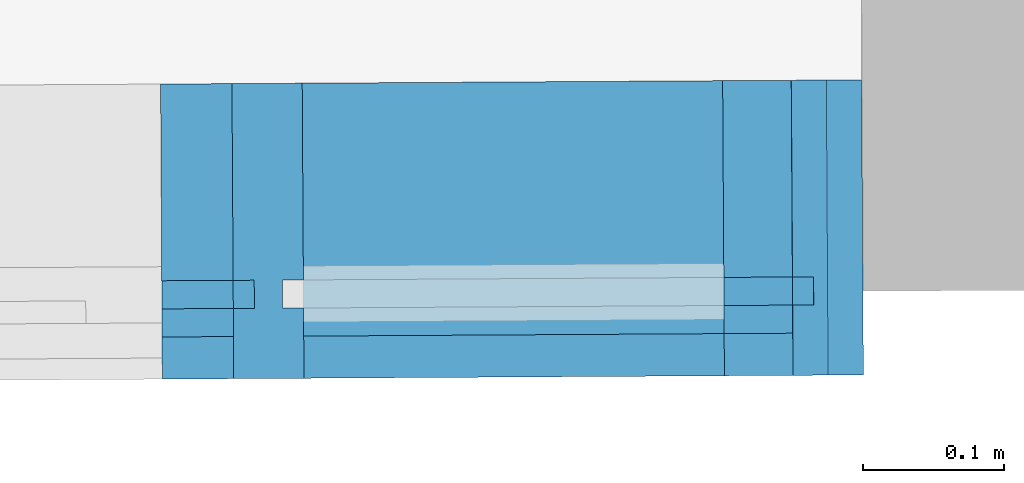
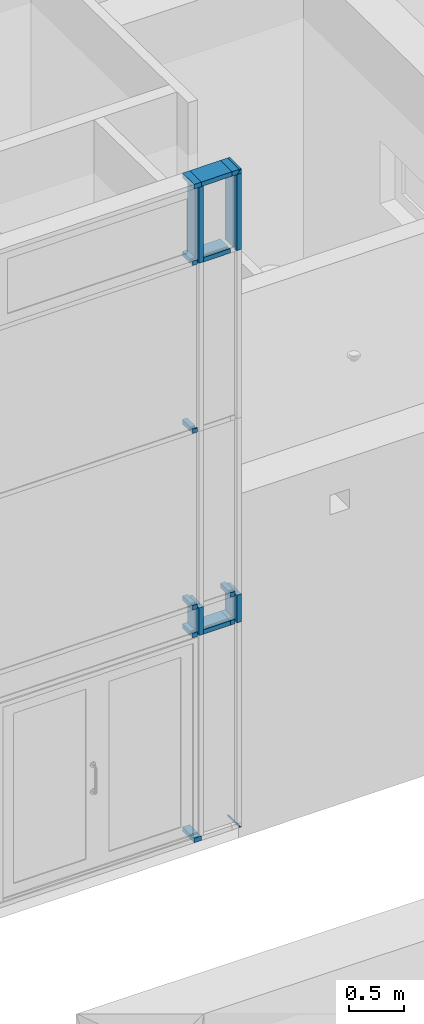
# One storey, part 148 of 196: 19 building element parts, 1 element without a shape of its own.
"""IFC2X3 building model written with IfcOpenShell, lengths in metres."""

from ifc_helpers import new_model, entity, si_unit, converted_unit, derived_unit, money_unit, direction, frame, origin_with_axes, place, context, subcontext, project, spatial, faceted_brep, material, type_object, element, aggregate, save


model = new_model("IFC2X3")

# Units and contexts
model_context = context("Model", 3, precision=1e-05, world=origin_with_axes(), true_north=direction((0.0, 1.0)))
body_context = subcontext(model_context, "Body", "Model", "MODEL_VIEW")
ifc_project = project(units=[si_unit("LENGTHUNIT", "METRE"), si_unit("AREAUNIT", "SQUARE_METRE"), si_unit("VOLUMEUNIT", "CUBIC_METRE"), converted_unit("PLANEANGLEUNIT", "DEGREE", entity("IfcPlaneAngleMeasure", 0.0174532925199), si_unit("PLANEANGLEUNIT", "RADIAN"), dimensions=[0, 0, 0, 0, 0, 0, 0]), money_unit("EUR"), converted_unit("TIMEUNIT", "Year", entity("IfcTimeMeasure", 31556926.0), si_unit("TIMEUNIT", "SECOND"), dimensions=[0, 0, 1, 0, 0, 0, 0]), si_unit("MASSUNIT", "GRAM", prefix="KILO"), si_unit("THERMODYNAMICTEMPERATUREUNIT", "DEGREE_CELSIUS"), si_unit("LUMINOUSINTENSITYUNIT", "LUMEN"), si_unit("ENERGYUNIT", "JOULE", prefix="MEGA"), derived_unit("THERMALCONDUCTANCEUNIT", [(si_unit("POWERUNIT", "WATT"), 1), (si_unit("LENGTHUNIT", "METRE"), -1), (si_unit("THERMODYNAMICTEMPERATUREUNIT", "KELVIN"), -1)]), derived_unit("SPECIFICHEATCAPACITYUNIT", [(si_unit("ENERGYUNIT", "JOULE"), 1), (si_unit("MASSUNIT", "GRAM", prefix="KILO"), -1), (si_unit("THERMODYNAMICTEMPERATUREUNIT", "KELVIN"), -1)]), derived_unit("MASSDENSITYUNIT", [(si_unit("MASSUNIT", "GRAM", prefix="KILO"), 1), (si_unit("VOLUMEUNIT", "CUBIC_METRE"), -1)])], contexts=[model_context])

# Site, building, storey
site_placement = place(None, origin_with_axes())
site = spatial("IfcSite", under=ifc_project, at=site_placement, Name="Gelände", CompositionType="ELEMENT")
building_placement = place(site_placement, origin_with_axes())
building = spatial("IfcBuilding", under=site, at=building_placement, Name="Gebäude", CompositionType="ELEMENT")
storey_placement = place(building_placement, frame((0.0, 0.0, -3.0), z_axis=(0.0, 0.0, 1.0), x_axis=(1.0, 0.0, 0.0)))
storey = spatial("IfcBuildingStorey", under=building, at=storey_placement, Name="KELLERGESCHOSS", CompositionType="ELEMENT", Elevation=-3.0)

# Proxy, building element parts
building_element_proxy_type = type_object("IfcBuildingElementProxyType", Name="Fassadentyp", PredefinedType="NOTDEFINED")
proxy_placement = place(storey_placement, frame((-23.8310150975, 30.9074049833, 0.410855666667), z_axis=(0.0, 0.0, 1.0), x_axis=(1.0, 0.0, 0.0)))
proxy = element("IfcBuildingElementProxy", 1, at=proxy_placement, inside=storey, type_object=building_element_proxy_type, Name="Fassade-002")
ifc_material = material(Name="53_Metall, Aluminium")
building_element_part_1_placement = place(proxy_placement, origin_with_axes())
building_element_part_1 = element("IfcBuildingElementPart", 2, at=building_element_part_1_placement, material=ifc_material, Name="53_Metall, Aluminium", context=body_context, shape_type="Brep", body=[
    faceted_brep([(0.0834090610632, 0.0104994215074, 2.26812768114), (0.0834090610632, 0.0104994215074, 2.25312768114), (0.082571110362, 0.150496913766, 2.25312768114), (0.082571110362, 0.150496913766, 2.30312768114), (0.0834090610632, 0.0104994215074, 2.30312768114), (0.0834090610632, 0.0104994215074, 2.28812768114), (0.0835287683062, -0.00950022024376, 2.28812768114), (0.0835287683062, -0.00950022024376, 2.30312768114), (0.0836484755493, -0.029499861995, 2.30312768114), (0.0836484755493, -0.029499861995, 2.25312768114), (0.0835287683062, -0.00950022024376, 2.25312768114), (0.0835287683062, -0.00950022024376, 2.26812768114), (-0.215786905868, 0.00870859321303, 2.26812768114), (-0.215786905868, 0.00870859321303, 2.25312768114), (-0.216624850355, 0.148706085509, 2.25312768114), (-0.216624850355, 0.148706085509, 2.30312768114), (-0.215786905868, 0.00870859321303, 2.30312768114), (-0.215786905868, 0.00870859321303, 2.28812768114), (-0.215667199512, -0.0112910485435, 2.28812768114), (-0.215667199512, -0.0112910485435, 2.30312768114), (-0.215547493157, -0.0312906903, 2.30312768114), (-0.215547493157, -0.0312906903, 2.25312768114), (-0.215667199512, -0.0112910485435, 2.25312768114), (-0.215667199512, -0.0112910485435, 2.26812768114)], [[[0, 1, 2, 3, 4, 5, 6, 7, 8, 9, 10, 11]], [[1, 0, 12, 13]], [[1, 13, 14, 2]], [[2, 14, 15, 3]], [[4, 3, 15, 16]], [[4, 16, 17, 5]], [[5, 17, 18, 6]], [[7, 6, 18, 19]], [[19, 20, 8, 7]], [[8, 20, 21, 9]], [[22, 10, 9, 21]], [[11, 10, 22, 23]], [[0, 11, 23, 12]], [[23, 22, 21, 20, 19, 18, 17, 16, 15, 14, 13, 12]]]),
])
building_element_part_2_placement = place(proxy_placement, origin_with_axes())
building_element_part_2 = element("IfcBuildingElementPart", 3, at=building_element_part_2_placement, material=ifc_material, Name="53_Metall, Aluminium", context=body_context, shape_type="Brep", body=[
    faceted_brep([(0.132198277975, 0.0107914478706, 2.26812768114), (0.132198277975, 0.0107914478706, 2.25312768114), (0.131360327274, 0.150788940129, 2.25312768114), (0.131360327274, 0.150788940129, 2.30312768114), (0.132198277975, 0.0107914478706, 2.30312768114), (0.132198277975, 0.0107914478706, 2.28812768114), (0.132317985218, -0.00920819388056, 2.28812768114), (0.132317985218, -0.00920819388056, 2.30312768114), (0.132437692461, -0.0292078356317, 2.30312768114), (0.132437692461, -0.0292078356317, 2.25312768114), (0.132317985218, -0.00920819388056, 2.25312768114), (0.132317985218, -0.00920819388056, 2.26812768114), (0.0834090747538, 0.0104994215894, 2.26812768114), (0.0834090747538, 0.0104994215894, 2.25312768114), (0.0825711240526, 0.150496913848, 2.25312768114), (0.0825711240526, 0.150496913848, 2.30312768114), (0.0834090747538, 0.0104994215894, 2.30312768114), (0.0834090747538, 0.0104994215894, 2.28812768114), (0.0835287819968, -0.00950022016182, 2.28812768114), (0.0835287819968, -0.00950022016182, 2.30312768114), (0.0836484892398, -0.029499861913, 2.30312768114), (0.0836484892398, -0.029499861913, 2.25312768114), (0.0835287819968, -0.00950022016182, 2.25312768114), (0.0835287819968, -0.00950022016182, 2.26812768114)], [[[0, 1, 2, 3, 4, 5, 6, 7, 8, 9, 10, 11]], [[1, 0, 12, 13]], [[1, 13, 14, 2]], [[3, 2, 14, 15]], [[4, 3, 15, 16]], [[4, 16, 17, 5]], [[5, 17, 18, 6]], [[7, 6, 18, 19]], [[19, 20, 8, 7]], [[9, 8, 20, 21]], [[22, 10, 9, 21]], [[11, 10, 22, 23]], [[0, 11, 23, 12]], [[23, 22, 21, 20, 19, 18, 17, 16, 15, 14, 13, 12]]]),
])
building_element_part_3_placement = place(proxy_placement, origin_with_axes())
building_element_part_3 = element("IfcBuildingElementPart", 4, at=building_element_part_3_placement, material=ifc_material, Name="53_Metall, Aluminium", context=body_context, shape_type="Brep", body=[
    faceted_brep([(0.132198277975, 0.0107914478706, 2.57656080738), (0.132198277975, 0.0107914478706, 2.56156080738), (0.131360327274, 0.150788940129, 2.56156080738), (0.131360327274, 0.150788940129, 2.61156080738), (0.132198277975, 0.0107914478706, 2.61156080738), (0.132198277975, 0.0107914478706, 2.59656080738), (0.132317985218, -0.00920819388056, 2.59656080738), (0.132317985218, -0.00920819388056, 2.61156080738), (0.132437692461, -0.0292078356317, 2.61156080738), (0.132437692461, -0.0292078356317, 2.56156080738), (0.132317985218, -0.00920819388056, 2.56156080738), (0.132317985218, -0.00920819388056, 2.57656080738), (0.0834090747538, 0.0104994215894, 2.57656080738), (0.0834090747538, 0.0104994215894, 2.56156080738), (0.0825711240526, 0.150496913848, 2.56156080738), (0.0825711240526, 0.150496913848, 2.61156080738), (0.0834090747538, 0.0104994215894, 2.61156080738), (0.0834090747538, 0.0104994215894, 2.59656080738), (0.0835287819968, -0.00950022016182, 2.59656080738), (0.0835287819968, -0.00950022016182, 2.61156080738), (0.0836484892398, -0.029499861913, 2.61156080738), (0.0836484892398, -0.029499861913, 2.56156080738), (0.0835287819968, -0.00950022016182, 2.56156080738), (0.0835287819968, -0.00950022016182, 2.57656080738)], [[[0, 1, 2, 3, 4, 5, 6, 7, 8, 9, 10, 11]], [[1, 0, 12, 13]], [[1, 13, 14, 2]], [[3, 2, 14, 15]], [[4, 3, 15, 16]], [[4, 16, 17, 5]], [[5, 17, 18, 6]], [[7, 6, 18, 19]], [[19, 20, 8, 7]], [[9, 8, 20, 21]], [[22, 10, 9, 21]], [[11, 10, 22, 23]], [[0, 11, 23, 12]], [[23, 22, 21, 20, 19, 18, 17, 16, 15, 14, 13, 12]]]),
])
building_element_part_4_placement = place(proxy_placement, origin_with_axes())
building_element_part_4 = element("IfcBuildingElementPart", 5, at=building_element_part_4_placement, material=ifc_material, Name="53_Metall, Aluminium", context=body_context, shape_type="Brep", body=[
    faceted_brep([(-0.230786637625, 0.0086188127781, 2.5865608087), (-0.215786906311, 0.00870859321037, 2.5865608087), (-0.216624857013, 0.148706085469, 2.5865608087), (-0.266623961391, 0.148406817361, 2.5865608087), (-0.265786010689, 0.0084093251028, 2.5865608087), (-0.250786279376, 0.00849910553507, 2.5865608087), (-0.250666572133, -0.0115005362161, 2.5865608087), (-0.265666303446, -0.0115903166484, 2.5865608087), (-0.265367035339, -0.0615894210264, 2.5865608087), (-0.215367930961, -0.0612901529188, 2.5865608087), (-0.215667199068, -0.0112910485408, 2.5865608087), (-0.230666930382, -0.0113808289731, 2.5865608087), (-0.230786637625, 0.0086188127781, 2.27812767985), (-0.215786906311, 0.00870859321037, 2.27812767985), (-0.216624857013, 0.148706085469, 2.27812767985), (-0.266623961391, 0.148406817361, 2.27812767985), (-0.265786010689, 0.0084093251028, 2.27812767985), (-0.250786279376, 0.00849910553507, 2.27812767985), (-0.250666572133, -0.0115005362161, 2.27812767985), (-0.265666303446, -0.0115903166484, 2.27812767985), (-0.265367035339, -0.0615894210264, 2.27812767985), (-0.215367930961, -0.0612901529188, 2.27812767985), (-0.215667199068, -0.0112910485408, 2.27812767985), (-0.230666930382, -0.0113808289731, 2.27812767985)], [[[0, 1, 2, 3, 4, 5, 6, 7, 8, 9, 10, 11]], [[1, 0, 12, 13]], [[1, 13, 14, 2]], [[3, 2, 14, 15]], [[4, 3, 15, 16]], [[4, 16, 17, 5]], [[5, 17, 18, 6]], [[7, 6, 18, 19]], [[19, 20, 8, 7]], [[9, 8, 20, 21]], [[22, 10, 9, 21]], [[11, 10, 22, 23]], [[0, 11, 23, 12]], [[23, 22, 21, 20, 19, 18, 17, 16, 15, 14, 13, 12]]]),
])
building_element_part_5_placement = place(proxy_placement, origin_with_axes())
building_element_part_5 = element("IfcBuildingElementPart", 6, at=building_element_part_5_placement, material=ifc_material, Name="53_Metall, Aluminium", context=body_context, shape_type="Brep", body=[
    faceted_brep([(-0.31658376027, 0.00810527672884, 7.26500006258), (-0.316464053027, -0.0118943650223, 7.26500006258), (-0.316464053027, -0.0118943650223, 7.25000006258), (-0.316164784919, -0.0618934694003, 7.25000006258), (-0.316164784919, -0.0618934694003, 7.30000006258), (-0.317421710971, 0.148102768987, 7.30000006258), (-0.317421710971, 0.148102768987, 7.25000006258), (-0.31658376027, 0.00810527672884, 7.25000006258), (-0.240786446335, 0.0085589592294, 7.26500006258), (-0.240666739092, -0.0114406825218, 7.26500006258), (-0.240666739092, -0.0114406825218, 7.25000006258), (-0.240367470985, -0.0614397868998, 7.25000006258), (-0.240367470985, -0.0614397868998, 7.30000006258), (-0.241624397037, 0.148556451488, 7.30000006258), (-0.241624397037, 0.148556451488, 7.25000006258), (-0.240786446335, 0.0085589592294, 7.25000006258)], [[[0, 1, 2, 3, 4, 5, 6, 7]], [[1, 0, 8, 9]], [[10, 2, 1, 9]], [[2, 10, 11, 3]], [[12, 4, 3, 11]], [[13, 5, 4, 12]], [[14, 6, 5, 13]], [[15, 7, 6, 14]], [[0, 7, 15, 8]], [[8, 15, 14, 13, 12, 11, 10, 9]]]),
])
building_element_part_6_placement = place(proxy_placement, origin_with_axes())
building_element_part_6 = element("IfcBuildingElementPart", 7, at=building_element_part_6_placement, material=ifc_material, Name="53_Metall, Aluminium", context=body_context, shape_type="Brep", body=[
    faceted_brep([(0.14734139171, 0.010882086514, 2.58656080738), (0.147461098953, -0.0091175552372, 2.58656080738), (0.132461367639, -0.00920733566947, 2.58656080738), (0.132760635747, -0.0592064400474, 2.58656080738), (0.182759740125, -0.0589071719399, 2.58656080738), (0.181502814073, 0.151089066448, 2.58656080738), (0.131503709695, 0.15078979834, 2.58656080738), (0.132341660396, 0.0107923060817, 2.58656080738), (0.14734139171, 0.010882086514, 2.27812768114), (0.147461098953, -0.0091175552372, 2.27812768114), (0.132461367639, -0.00920733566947, 2.27812768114), (0.132760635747, -0.0592064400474, 2.27812768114), (0.182759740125, -0.0589071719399, 2.27812768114), (0.181502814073, 0.151089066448, 2.27812768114), (0.131503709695, 0.15078979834, 2.27812768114), (0.132341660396, 0.0107923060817, 2.27812768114)], [[[0, 1, 2, 3, 4, 5, 6, 7]], [[1, 0, 8, 9]], [[10, 2, 1, 9]], [[2, 10, 11, 3]], [[12, 4, 3, 11]], [[13, 5, 4, 12]], [[14, 6, 5, 13]], [[15, 7, 6, 14]], [[0, 7, 15, 8]], [[8, 15, 14, 13, 12, 11, 10, 9]]]),
])
building_element_part_7_placement = place(proxy_placement, origin_with_axes())
building_element_part_7 = element("IfcBuildingElementPart", 8, at=building_element_part_7_placement, material=ifc_material, Name="53_Metall, Aluminium", context=body_context, shape_type="Brep", body=[
    faceted_brep([(-0.265785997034, 0.00840932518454, 2.57656080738), (-0.265785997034, 0.00840932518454, 2.56156080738), (-0.266623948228, 0.14840681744, 2.56156080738), (-0.266623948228, 0.14840681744, 2.61156080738), (-0.265785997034, 0.00840932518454, 2.61156080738), (-0.265785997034, 0.00840932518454, 2.59656080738), (-0.265666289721, -0.0115903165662, 2.59656080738), (-0.265666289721, -0.0115903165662, 2.61156080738), (-0.265546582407, -0.031589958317, 2.61156080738), (-0.265546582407, -0.031589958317, 2.56156080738), (-0.265666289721, -0.0115903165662, 2.56156080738), (-0.265666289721, -0.0115903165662, 2.57656080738), (-0.31658376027, 0.00810527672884, 2.57656080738), (-0.31658376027, 0.00810527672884, 2.56156080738), (-0.317421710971, 0.148102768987, 2.56156080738), (-0.317421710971, 0.148102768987, 2.61156080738), (-0.31658376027, 0.00810527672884, 2.61156080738), (-0.31658376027, 0.00810527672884, 2.59656080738), (-0.316464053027, -0.0118943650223, 2.59656080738), (-0.316464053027, -0.0118943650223, 2.61156080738), (-0.316344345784, -0.0318940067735, 2.61156080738), (-0.316344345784, -0.0318940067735, 2.56156080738), (-0.316464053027, -0.0118943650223, 2.56156080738), (-0.316464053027, -0.0118943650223, 2.57656080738)], [[[0, 1, 2, 3, 4, 5, 6, 7, 8, 9, 10, 11]], [[1, 0, 12, 13]], [[1, 13, 14, 2]], [[3, 2, 14, 15]], [[4, 3, 15, 16]], [[4, 16, 17, 5]], [[5, 17, 18, 6]], [[7, 6, 18, 19]], [[19, 20, 8, 7]], [[9, 8, 20, 21]], [[22, 10, 9, 21]], [[11, 10, 22, 23]], [[0, 11, 23, 12]], [[23, 22, 21, 20, 19, 18, 17, 16, 15, 14, 13, 12]]]),
])
building_element_part_8_placement = place(proxy_placement, origin_with_axes())
building_element_part_8 = element("IfcBuildingElementPart", 9, at=building_element_part_8_placement, material=ifc_material, Name="53_Metall, Aluminium", context=body_context, shape_type="Brep", body=[
    faceted_brep([(0.0834090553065, 0.010499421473, 7.26500006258), (0.0835287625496, -0.00950022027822, 7.26500006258), (0.0835287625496, -0.00950022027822, 7.25000006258), (0.0838280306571, -0.0594993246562, 7.25000006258), (0.0838280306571, -0.0594993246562, 7.30000006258), (0.0825711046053, 0.150496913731, 7.30000006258), (0.0825711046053, 0.150496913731, 7.25000006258), (0.0834090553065, 0.010499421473, 7.25000006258), (0.157197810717, 0.010941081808, 7.26500006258), (0.15731751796, -0.00905855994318, 7.26500006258), (0.15731751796, -0.00905855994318, 7.25000006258), (0.157616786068, -0.0590576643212, 7.25000006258), (0.157616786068, -0.0590576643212, 7.30000006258), (0.156359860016, 0.150938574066, 7.30000006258), (0.156359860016, 0.150938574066, 7.25000006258), (0.157197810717, 0.010941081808, 7.25000006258)], [[[0, 1, 2, 3, 4, 5, 6, 7]], [[1, 0, 8, 9]], [[10, 2, 1, 9]], [[2, 10, 11, 3]], [[12, 4, 3, 11]], [[13, 5, 4, 12]], [[14, 6, 5, 13]], [[15, 7, 6, 14]], [[0, 7, 15, 8]], [[8, 15, 14, 13, 12, 11, 10, 9]]]),
])
building_element_part_9_placement = place(proxy_placement, origin_with_axes())
building_element_part_9 = element("IfcBuildingElementPart", 10, at=building_element_part_9_placement, material=ifc_material, Name="53_Metall, Aluminium", context=body_context, shape_type="Brep", body=[
    faceted_brep([(0.0834090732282, 0.0104994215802, 6.39594888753), (0.0834090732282, 0.0104994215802, 6.38094888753), (0.082571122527, 0.150496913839, 6.38094888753), (0.082571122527, 0.150496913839, 6.43094888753), (0.0834090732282, 0.0104994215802, 6.43094888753), (0.0834090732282, 0.0104994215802, 6.41594888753), (0.0835287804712, -0.00950022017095, 6.41594888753), (0.0835287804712, -0.00950022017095, 6.43094888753), (0.0836484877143, -0.0294998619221, 6.43094888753), (0.0836484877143, -0.0294998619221, 6.38094888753), (0.0835287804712, -0.00950022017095, 6.38094888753), (0.0835287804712, -0.00950022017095, 6.39594888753), (-0.215786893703, 0.00870859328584, 6.39594888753), (-0.215786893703, 0.00870859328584, 6.38094888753), (-0.21662483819, 0.148706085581, 6.38094888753), (-0.21662483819, 0.148706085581, 6.43094888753), (-0.215786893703, 0.00870859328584, 6.43094888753), (-0.215786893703, 0.00870859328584, 6.41594888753), (-0.215667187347, -0.0112910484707, 6.41594888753), (-0.215667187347, -0.0112910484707, 6.43094888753), (-0.215547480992, -0.0312906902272, 6.43094888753), (-0.215547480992, -0.0312906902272, 6.38094888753), (-0.215667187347, -0.0112910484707, 6.38094888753), (-0.215667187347, -0.0112910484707, 6.39594888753)], [[[0, 1, 2, 3, 4, 5, 6, 7, 8, 9, 10, 11]], [[1, 0, 12, 13]], [[1, 13, 14, 2]], [[2, 14, 15, 3]], [[4, 3, 15, 16]], [[4, 16, 17, 5]], [[5, 17, 18, 6]], [[7, 6, 18, 19]], [[19, 20, 8, 7]], [[8, 20, 21, 9]], [[22, 10, 9, 21]], [[11, 10, 22, 23]], [[0, 11, 23, 12]], [[23, 22, 21, 20, 19, 18, 17, 16, 15, 14, 13, 12]]]),
])
building_element_part_10_placement = place(proxy_placement, origin_with_axes())
building_element_part_10 = element("IfcBuildingElementPart", 11, at=building_element_part_10_placement, material=ifc_material, Name="53_Metall, Aluminium", context=body_context, shape_type="Brep", body=[
    faceted_brep([(-0.265785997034, 0.00840932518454, 4.5322628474), (-0.265785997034, 0.00840932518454, 4.5172628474), (-0.266623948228, 0.14840681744, 4.5172628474), (-0.266623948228, 0.14840681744, 4.5672628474), (-0.265785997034, 0.00840932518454, 4.5672628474), (-0.265785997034, 0.00840932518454, 4.5522628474), (-0.265666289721, -0.0115903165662, 4.5522628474), (-0.265666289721, -0.0115903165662, 4.5672628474), (-0.265546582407, -0.031589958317, 4.5672628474), (-0.265546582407, -0.031589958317, 4.5172628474), (-0.265666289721, -0.0115903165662, 4.5172628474), (-0.265666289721, -0.0115903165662, 4.5322628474), (-0.31658376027, 0.00810527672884, 4.5322628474), (-0.31658376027, 0.00810527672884, 4.5172628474), (-0.317421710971, 0.148102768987, 4.5172628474), (-0.317421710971, 0.148102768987, 4.5672628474), (-0.31658376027, 0.00810527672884, 4.5672628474), (-0.31658376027, 0.00810527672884, 4.5522628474), (-0.316464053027, -0.0118943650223, 4.5522628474), (-0.316464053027, -0.0118943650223, 4.5672628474), (-0.316344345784, -0.0318940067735, 4.5672628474), (-0.316344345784, -0.0318940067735, 4.5172628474), (-0.316464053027, -0.0118943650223, 4.5172628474), (-0.316464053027, -0.0118943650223, 4.5322628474)], [[[0, 1, 2, 3, 4, 5, 6, 7, 8, 9, 10, 11]], [[1, 0, 12, 13]], [[1, 13, 14, 2]], [[3, 2, 14, 15]], [[4, 3, 15, 16]], [[4, 16, 17, 5]], [[5, 17, 18, 6]], [[7, 6, 18, 19]], [[19, 20, 8, 7]], [[9, 8, 20, 21]], [[22, 10, 9, 21]], [[11, 10, 22, 23]], [[0, 11, 23, 12]], [[23, 22, 21, 20, 19, 18, 17, 16, 15, 14, 13, 12]]]),
])
building_element_part_11_placement = place(proxy_placement, origin_with_axes())
building_element_part_11 = element("IfcBuildingElementPart", 12, at=building_element_part_11_placement, material=ifc_material, Name="53_Metall, Aluminium", context=body_context, shape_type="Brep", body=[
    faceted_brep([(0.157616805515, -0.0590576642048, 0.0251433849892), (0.157616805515, -0.0590576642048, 0.0), (0.182759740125, -0.0589071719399, 0.0), (0.156359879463, 0.150938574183, 0.0251433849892), (0.156359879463, 0.150938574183, 0.0), (0.181502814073, 0.151089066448, 0.0)], [[[0, 1, 2]], [[3, 4, 1, 0]], [[1, 4, 5, 2]], [[0, 2, 5, 3]], [[4, 3, 5]]]),
])
building_element_part_12_placement = place(proxy_placement, origin_with_axes())
building_element_part_12 = element("IfcBuildingElementPart", 13, at=building_element_part_12_placement, material=ifc_material, Name="53_Metall, Aluminium", context=body_context, shape_type="Brep", body=[
    faceted_brep([(0.147341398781, 0.0108820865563, 7.26500006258), (0.147461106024, -0.00911755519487, 7.26500006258), (0.132461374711, -0.00920733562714, 7.25000006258), (0.132760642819, -0.0592064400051, 7.25000006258), (0.182759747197, -0.0589071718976, 7.30000006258), (0.181502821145, 0.15108906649, 7.30000006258), (0.131503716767, 0.150789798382, 7.25000006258), (0.132341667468, 0.010792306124, 7.25000006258), (0.147341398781, 0.0108820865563, 6.40594888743), (0.147461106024, -0.00911755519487, 6.40594888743), (0.132461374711, -0.00920733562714, 6.40594888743), (0.132760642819, -0.0592064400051, 6.40594888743), (0.182759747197, -0.0589071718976, 6.40594888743), (0.181502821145, 0.15108906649, 6.40594888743), (0.131503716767, 0.150789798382, 6.40594888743), (0.132341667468, 0.010792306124, 6.40594888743)], [[[0, 1, 2, 3, 4, 5, 6, 7]], [[1, 0, 8, 9]], [[10, 2, 1, 9]], [[2, 10, 11, 3]], [[12, 4, 3, 11]], [[13, 5, 4, 12]], [[14, 6, 5, 13]], [[15, 7, 6, 14]], [[0, 7, 15, 8]], [[8, 15, 14, 13, 12, 11, 10, 9]]]),
])
building_element_part_13_placement = place(proxy_placement, origin_with_axes())
building_element_part_13 = element("IfcBuildingElementPart", 14, at=building_element_part_13_placement, material=ifc_material, Name="53_Metall, Aluminium", context=body_context, shape_type="Brep", body=[
    faceted_brep([(-0.23078662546, 0.00861881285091, 7.25000006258), (-0.215786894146, 0.00870859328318, 7.25000006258), (-0.216624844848, 0.148706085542, 7.25000006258), (-0.266623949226, 0.148406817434, 7.25000006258), (-0.265785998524, 0.00840932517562, 7.25000006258), (-0.250786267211, 0.00849910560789, 7.25000006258), (-0.250666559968, -0.0115005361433, 7.25000006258), (-0.265666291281, -0.0115903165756, 7.25000006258), (-0.265367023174, -0.0615894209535, 7.25000006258), (-0.215367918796, -0.061290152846, 7.25000006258), (-0.215667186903, -0.011291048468, 7.25000006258), (-0.230666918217, -0.0113808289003, 7.25000006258), (-0.23078662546, 0.00861881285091, 6.40594888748), (-0.215786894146, 0.00870859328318, 6.40594888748), (-0.216624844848, 0.148706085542, 6.40594888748), (-0.266623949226, 0.148406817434, 6.40594888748), (-0.265785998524, 0.00840932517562, 6.40594888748), (-0.250786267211, 0.00849910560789, 6.40594888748), (-0.250666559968, -0.0115005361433, 6.40594888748), (-0.265666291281, -0.0115903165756, 6.40594888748), (-0.265367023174, -0.0615894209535, 6.40594888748), (-0.215367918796, -0.061290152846, 6.40594888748), (-0.215667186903, -0.011291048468, 6.40594888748), (-0.230666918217, -0.0113808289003, 6.40594888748)], [[[0, 1, 2, 3, 4, 5, 6, 7, 8, 9, 10, 11]], [[1, 0, 12, 13]], [[1, 13, 14, 2]], [[3, 2, 14, 15]], [[4, 3, 15, 16]], [[4, 16, 17, 5]], [[5, 17, 18, 6]], [[7, 6, 18, 19]], [[19, 20, 8, 7]], [[9, 8, 20, 21]], [[22, 10, 9, 21]], [[11, 10, 22, 23]], [[0, 11, 23, 12]], [[23, 22, 21, 20, 19, 18, 17, 16, 15, 14, 13, 12]]]),
])
building_element_part_14_placement = place(proxy_placement, origin_with_axes())
building_element_part_14 = element("IfcBuildingElementPart", 15, at=building_element_part_14_placement, material=ifc_material, Name="53_Metall, Aluminium", context=body_context, shape_type="Brep", body=[
    faceted_brep([(-0.2407864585, 0.00855895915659, 7.26500006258), (-0.240666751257, -0.0114406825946, 7.26500006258), (-0.240666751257, -0.0114406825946, 7.25000006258), (-0.24036748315, -0.0614397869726, 7.25000006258), (-0.24036748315, -0.0614397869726, 7.30000006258), (-0.241624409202, 0.148556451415, 7.30000006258), (-0.241624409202, 0.148556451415, 7.25000006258), (-0.2407864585, 0.00855895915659, 7.25000006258), (0.0834090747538, 0.0104994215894, 7.26500006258), (0.0835287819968, -0.00950022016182, 7.26500006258), (0.0835287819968, -0.00950022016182, 7.25000006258), (0.0838280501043, -0.0594993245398, 7.25000006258), (0.0838280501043, -0.0594993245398, 7.30000006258), (0.0825711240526, 0.150496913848, 7.30000006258), (0.0825711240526, 0.150496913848, 7.25000006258), (0.0834090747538, 0.0104994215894, 7.25000006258)], [[[0, 1, 2, 3, 4, 5, 6, 7]], [[1, 0, 8, 9]], [[10, 2, 1, 9]], [[2, 10, 11, 3]], [[12, 4, 3, 11]], [[13, 5, 4, 12]], [[14, 6, 5, 13]], [[15, 7, 6, 14]], [[0, 7, 15, 8]], [[8, 15, 14, 13, 12, 11, 10, 9]]]),
])
building_element_part_15_placement = place(proxy_placement, origin_with_axes())
building_element_part_15 = element("IfcBuildingElementPart", 16, at=building_element_part_15_placement, material=ifc_material, Name="53_Metall, Aluminium", context=body_context, shape_type="Brep", body=[
    faceted_brep([(-0.265785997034, 0.00840932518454, 6.39594888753), (-0.265785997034, 0.00840932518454, 6.38094888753), (-0.266623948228, 0.14840681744, 6.38094888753), (-0.266623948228, 0.14840681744, 6.43094888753), (-0.265785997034, 0.00840932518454, 6.43094888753), (-0.265785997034, 0.00840932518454, 6.41594888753), (-0.265666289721, -0.0115903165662, 6.41594888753), (-0.265666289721, -0.0115903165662, 6.43094888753), (-0.265546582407, -0.031589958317, 6.43094888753), (-0.265546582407, -0.031589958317, 6.38094888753), (-0.265666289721, -0.0115903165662, 6.38094888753), (-0.265666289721, -0.0115903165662, 6.39594888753), (-0.31658376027, 0.00810527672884, 6.39594888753), (-0.31658376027, 0.00810527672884, 6.38094888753), (-0.317421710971, 0.148102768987, 6.38094888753), (-0.317421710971, 0.148102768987, 6.43094888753), (-0.31658376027, 0.00810527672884, 6.43094888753), (-0.31658376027, 0.00810527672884, 6.41594888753), (-0.316464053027, -0.0118943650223, 6.41594888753), (-0.316464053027, -0.0118943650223, 6.43094888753), (-0.316344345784, -0.0318940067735, 6.43094888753), (-0.316344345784, -0.0318940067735, 6.38094888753), (-0.316464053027, -0.0118943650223, 6.38094888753), (-0.316464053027, -0.0118943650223, 6.39594888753)], [[[0, 1, 2, 3, 4, 5, 6, 7, 8, 9, 10, 11]], [[1, 0, 12, 13]], [[1, 13, 14, 2]], [[3, 2, 14, 15]], [[4, 3, 15, 16]], [[4, 16, 17, 5]], [[5, 17, 18, 6]], [[7, 6, 18, 19]], [[19, 20, 8, 7]], [[9, 8, 20, 21]], [[22, 10, 9, 21]], [[11, 10, 22, 23]], [[0, 11, 23, 12]], [[23, 22, 21, 20, 19, 18, 17, 16, 15, 14, 13, 12]]]),
])
building_element_part_16_placement = place(proxy_placement, origin_with_axes())
building_element_part_16 = element("IfcBuildingElementPart", 17, at=building_element_part_16_placement, material=ifc_material, Name="53_Metall, Aluminium", context=body_context, shape_type="Brep", body=[
    faceted_brep([(-0.240786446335, 0.0085589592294, 0.035), (-0.240666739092, -0.0114406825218, 0.035), (-0.240666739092, -0.0114406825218, 0.05), (-0.240367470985, -0.0614397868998, 0.05), (-0.240367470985, -0.0614397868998, 0.0), (-0.241624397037, 0.148556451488, 0.0), (-0.241624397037, 0.148556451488, 0.05), (-0.240786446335, 0.0085589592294, 0.05), (-0.31658376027, 0.00810527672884, 0.035), (-0.316464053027, -0.0118943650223, 0.035), (-0.316464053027, -0.0118943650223, 0.05), (-0.316164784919, -0.0618934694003, 0.05), (-0.316164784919, -0.0618934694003, 0.0), (-0.317421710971, 0.148102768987, 0.0), (-0.317421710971, 0.148102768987, 0.05), (-0.31658376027, 0.00810527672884, 0.05)], [[[0, 1, 2, 3, 4, 5, 6, 7]], [[1, 0, 8, 9]], [[10, 2, 1, 9]], [[2, 10, 11, 3]], [[12, 4, 3, 11]], [[13, 5, 4, 12]], [[14, 6, 5, 13]], [[15, 7, 6, 14]], [[0, 7, 15, 8]], [[8, 15, 14, 13, 12, 11, 10, 9]]]),
])
building_element_part_17_placement = place(proxy_placement, origin_with_axes())
building_element_part_17 = element("IfcBuildingElementPart", 18, at=building_element_part_17_placement, material=ifc_material, Name="53_Metall, Aluminium", context=body_context, shape_type="Brep", body=[
    faceted_brep([(-0.265785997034, 0.00840932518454, 2.26812768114), (-0.265785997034, 0.00840932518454, 2.25312768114), (-0.266623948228, 0.14840681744, 2.25312768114), (-0.266623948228, 0.14840681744, 2.30312768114), (-0.265785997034, 0.00840932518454, 2.30312768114), (-0.265785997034, 0.00840932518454, 2.28812768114), (-0.265666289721, -0.0115903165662, 2.28812768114), (-0.265666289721, -0.0115903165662, 2.30312768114), (-0.265546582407, -0.031589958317, 2.30312768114), (-0.265546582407, -0.031589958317, 2.25312768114), (-0.265666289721, -0.0115903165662, 2.25312768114), (-0.265666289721, -0.0115903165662, 2.26812768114), (-0.31658376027, 0.00810527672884, 2.26812768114), (-0.31658376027, 0.00810527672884, 2.25312768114), (-0.317421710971, 0.148102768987, 2.25312768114), (-0.317421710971, 0.148102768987, 2.30312768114), (-0.31658376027, 0.00810527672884, 2.30312768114), (-0.31658376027, 0.00810527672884, 2.28812768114), (-0.316464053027, -0.0118943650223, 2.28812768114), (-0.316464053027, -0.0118943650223, 2.30312768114), (-0.316344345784, -0.0318940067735, 2.30312768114), (-0.316344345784, -0.0318940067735, 2.25312768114), (-0.316464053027, -0.0118943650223, 2.25312768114), (-0.316464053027, -0.0118943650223, 2.26812768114)], [[[0, 1, 2, 3, 4, 5, 6, 7, 8, 9, 10, 11]], [[1, 0, 12, 13]], [[1, 13, 14, 2]], [[3, 2, 14, 15]], [[4, 3, 15, 16]], [[4, 16, 17, 5]], [[5, 17, 18, 6]], [[7, 6, 18, 19]], [[19, 20, 8, 7]], [[9, 8, 20, 21]], [[22, 10, 9, 21]], [[11, 10, 22, 23]], [[0, 11, 23, 12]], [[23, 22, 21, 20, 19, 18, 17, 16, 15, 14, 13, 12]]]),
])
building_element_part_18_placement = place(proxy_placement, origin_with_axes())
building_element_part_18 = element("IfcBuildingElementPart", 19, at=building_element_part_18_placement, material=ifc_material, Name="53_Metall, Aluminium", context=body_context, shape_type="Brep", body=[
    faceted_brep([(0.167197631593, 0.0110009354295, 7.25000006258), (0.182197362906, 0.0110907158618, 7.25000006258), (0.181359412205, 0.15108820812, 7.25000006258), (0.131360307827, 0.150788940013, 7.25000006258), (0.132198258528, 0.0107914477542, 7.25000006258), (0.147197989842, 0.0108812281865, 7.25000006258), (0.147317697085, -0.00911841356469, 7.25000006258), (0.132317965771, -0.00920819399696, 7.25000006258), (0.132617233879, -0.0592072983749, 7.25000006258), (0.182616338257, -0.0589080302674, 7.25000006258), (0.182317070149, -0.00890892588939, 7.25000006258), (0.167317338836, -0.00899870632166, 7.25000006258), (0.167197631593, 0.0110009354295, 6.40594888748), (0.182197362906, 0.0110907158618, 6.40594888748), (0.181359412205, 0.15108820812, 6.40594888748), (0.131360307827, 0.150788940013, 6.40594888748), (0.132198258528, 0.0107914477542, 6.40594888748), (0.147197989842, 0.0108812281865, 6.40594888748), (0.147317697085, -0.00911841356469, 6.40594888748), (0.132317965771, -0.00920819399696, 6.40594888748), (0.132617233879, -0.0592072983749, 6.40594888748), (0.182616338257, -0.0589080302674, 6.40594888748), (0.182317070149, -0.00890892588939, 6.40594888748), (0.167317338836, -0.00899870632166, 6.40594888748)], [[[0, 1, 2, 3, 4, 5, 6, 7, 8, 9, 10, 11]], [[1, 0, 12, 13]], [[1, 13, 14, 2]], [[3, 2, 14, 15]], [[4, 3, 15, 16]], [[4, 16, 17, 5]], [[5, 17, 18, 6]], [[7, 6, 18, 19]], [[19, 20, 8, 7]], [[9, 8, 20, 21]], [[22, 10, 9, 21]], [[11, 10, 22, 23]], [[0, 11, 23, 12]], [[23, 22, 21, 20, 19, 18, 17, 16, 15, 14, 13, 12]]]),
])
building_element_part_19_placement = place(proxy_placement, origin_with_axes())
building_element_part_19 = element("IfcBuildingElementPart", 20, at=building_element_part_19_placement, material=ifc_material, Name="53_Metall, Aluminium", context=body_context, shape_type="Brep", body=[
    faceted_brep([(0.182759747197, -0.0589071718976, 7.30000006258), (0.157616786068, -0.0590576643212, 7.30000006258), (0.157616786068, -0.0590576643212, 7.27485665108), (0.181502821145, 0.15108906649, 7.30000006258), (0.156359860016, 0.150938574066, 7.30000006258), (0.156359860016, 0.150938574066, 7.27485665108)], [[[0, 1, 2]], [[3, 4, 1, 0]], [[2, 1, 4, 5]], [[2, 5, 3, 0]], [[5, 4, 3]]]),
])
aggregate(proxy, [building_element_part_1, building_element_part_2, building_element_part_3, building_element_part_4, building_element_part_5, building_element_part_6, building_element_part_7, building_element_part_8, building_element_part_9, building_element_part_10, building_element_part_11, building_element_part_12, building_element_part_13, building_element_part_14, building_element_part_15, building_element_part_16, building_element_part_17, building_element_part_18, building_element_part_19])

save(model, "model.ifc")
